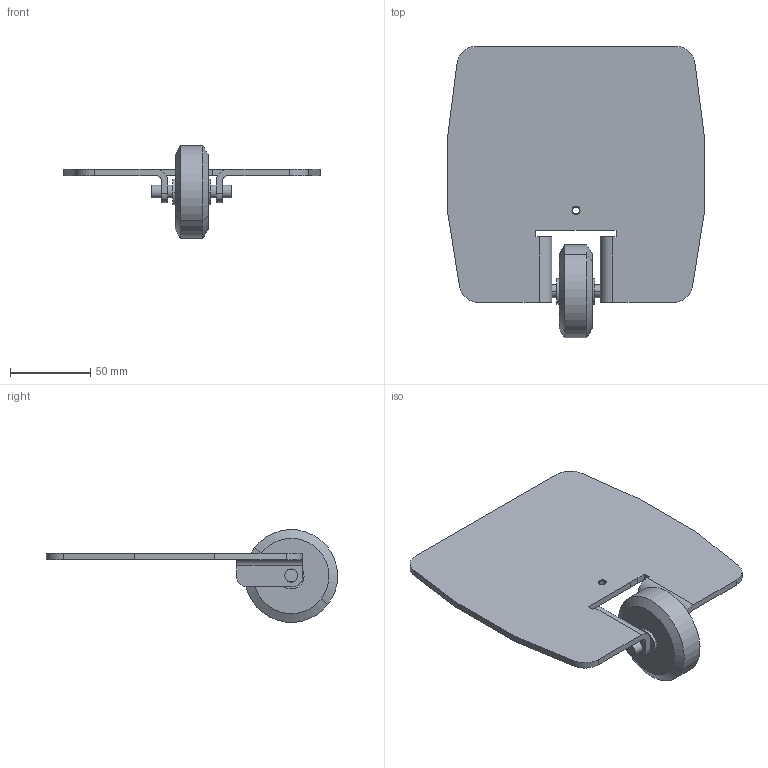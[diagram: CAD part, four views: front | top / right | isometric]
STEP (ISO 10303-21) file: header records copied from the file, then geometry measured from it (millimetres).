
FILE_DESCRIPTION (( 'STEP AP214' ), '1' );
FILE_NAME ('LS160_EDR.STEP', '2024-10-14T11:30:05', ( '' ), ( '' ), 'SwSTEP 2.0', 'SolidWorks 2024', '' );
FILE_SCHEMA (( 'AUTOMOTIVE_DESIGN' ));
Length unit declared in the file: millimetre
Products named in the file (1): LS160_EDR
Bounding box: 160 x 181.98 x 57.95 mm (x, y, z)
Volume: 150031.2 mm3; surface area: 62563.2 mm2
Topology: 5 solids, 5 shells, 74 faces, 186 edges, 122 vertices
Faces by surface type: cylinder 36, plane 32, cone 6
Entity records: 2323 total; most frequent: DIRECTION 414, CARTESIAN_POINT 383, ORIENTED_EDGE 372, EDGE_CURVE 186, AXIS2_PLACEMENT_3D 153, VERTEX_POINT 122, VECTOR 108, LINE 108
